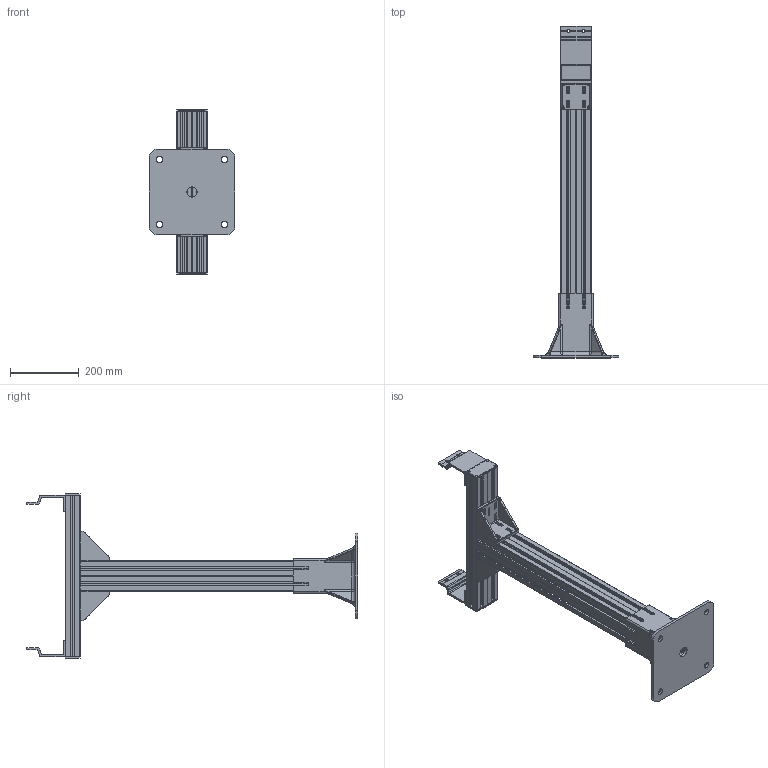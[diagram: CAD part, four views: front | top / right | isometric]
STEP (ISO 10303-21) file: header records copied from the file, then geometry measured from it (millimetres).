
FILE_DESCRIPTION (( 'STEP AP214' ), '1' );
FILE_NAME ('F2-1500-PC88.STEP', '2010-03-11T09:04:45', ( '.' ), ( '' ), 'SwSTEP 2.0', 'SolidWorks 2009', '' );
FILE_SCHEMA (( 'AUTOMOTIVE_DESIGN' ));
Length unit declared in the file: millimetre
Products named in the file (1): F2-1500-PC88
Bounding box: 250 x 966 x 480 mm (x, y, z)
Surface area: 1034769.4 mm2 (no closed solid volume)
Topology: 0 solids, 33 shells, 551 faces, 2659 edges, 2066 vertices
Faces by surface type: plane 286, cylinder 212, bspline 41, sphere 12
Entity records: 36973 total; most frequent: CARTESIAN_POINT 10458, DIRECTION 4226, ORIENTED_EDGE 3646, EDGE_CURVE 2631, VERTEX_POINT 2066, VECTOR 1652, LINE 1652, AXIS2_PLACEMENT_3D 1287
